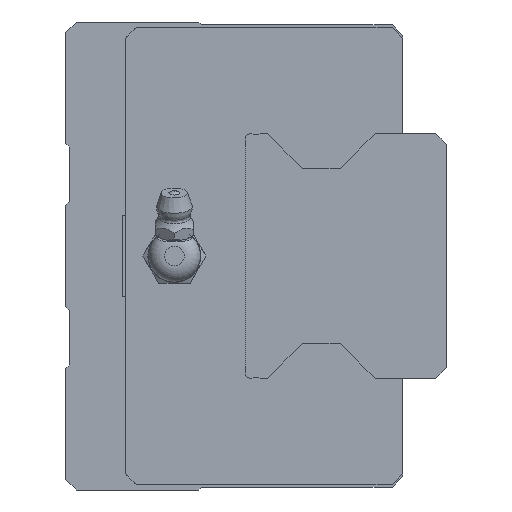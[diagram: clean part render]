
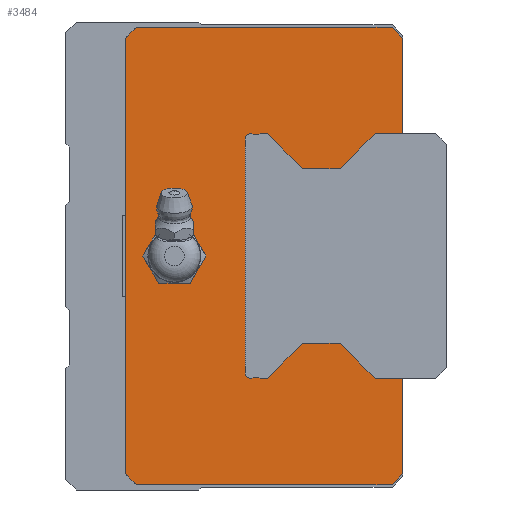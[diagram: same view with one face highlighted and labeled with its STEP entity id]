
A CAD part, left-side view. The second image highlights one B-rep face of the part: STEP entity #3484.
In plain terms, the highlighted planar face has unit normal (-1, 0, 0).
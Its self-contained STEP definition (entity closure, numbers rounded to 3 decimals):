
#157=CIRCLE('',#3797,4.989);
#158=CIRCLE('',#3798,0.26);
#159=CIRCLE('',#3799,0.26);
#160=CIRCLE('',#3800,1.);
#161=CIRCLE('',#3801,1.);
#162=CIRCLE('',#3802,0.26);
#163=CIRCLE('',#3803,0.26);
#671=ORIENTED_EDGE('',*,*,#1439,.T.);
#672=ORIENTED_EDGE('',*,*,#1440,.T.);
#673=ORIENTED_EDGE('',*,*,#1433,.F.);
#674=ORIENTED_EDGE('',*,*,#1407,.F.);
#675=ORIENTED_EDGE('',*,*,#1403,.F.);
#676=ORIENTED_EDGE('',*,*,#1395,.F.);
#677=ORIENTED_EDGE('',*,*,#1425,.F.);
#678=ORIENTED_EDGE('',*,*,#1381,.F.);
#679=ORIENTED_EDGE('',*,*,#1418,.F.);
#680=ORIENTED_EDGE('',*,*,#1415,.F.);
#681=ORIENTED_EDGE('',*,*,#1435,.F.);
#682=ORIENTED_EDGE('',*,*,#1441,.T.);
#683=ORIENTED_EDGE('',*,*,#1442,.T.);
#684=ORIENTED_EDGE('',*,*,#1443,.F.);
#685=ORIENTED_EDGE('',*,*,#1444,.T.);
#686=ORIENTED_EDGE('',*,*,#1445,.F.);
#687=ORIENTED_EDGE('',*,*,#1446,.T.);
#688=ORIENTED_EDGE('',*,*,#1447,.T.);
#689=ORIENTED_EDGE('',*,*,#1448,.T.);
#690=ORIENTED_EDGE('',*,*,#1449,.T.);
#691=ORIENTED_EDGE('',*,*,#1450,.T.);
#692=ORIENTED_EDGE('',*,*,#1451,.T.);
#693=ORIENTED_EDGE('',*,*,#1452,.T.);
#694=ORIENTED_EDGE('',*,*,#1453,.T.);
#695=ORIENTED_EDGE('',*,*,#1454,.T.);
#696=ORIENTED_EDGE('',*,*,#1455,.T.);
#697=ORIENTED_EDGE('',*,*,#1456,.T.);
#698=ORIENTED_EDGE('',*,*,#1457,.F.);
#699=ORIENTED_EDGE('',*,*,#1458,.T.);
#700=ORIENTED_EDGE('',*,*,#1459,.F.);
#701=ORIENTED_EDGE('',*,*,#1460,.T.);
#1381=EDGE_CURVE('',#1806,#1807,#2126,.T.);
#1395=EDGE_CURVE('',#1819,#1820,#2140,.T.);
#1403=EDGE_CURVE('',#1820,#1826,#2147,.T.);
#1407=EDGE_CURVE('',#1826,#1828,#2151,.T.);
#1415=EDGE_CURVE('',#1835,#1836,#2159,.T.);
#1418=EDGE_CURVE('',#1836,#1806,#2162,.T.);
#1425=EDGE_CURVE('',#1807,#1819,#2168,.T.);
#1433=EDGE_CURVE('',#1828,#1841,#2176,.T.);
#1435=EDGE_CURVE('',#1843,#1835,#2178,.T.);
#1439=EDGE_CURVE('',#1846,#1846,#157,.T.);
#1440=EDGE_CURVE('',#1847,#1841,#2182,.T.);
#1441=EDGE_CURVE('',#1843,#1848,#2183,.T.);
#1442=EDGE_CURVE('',#1848,#1849,#2184,.T.);
#1443=EDGE_CURVE('',#1850,#1849,#158,.T.);
#1444=EDGE_CURVE('',#1850,#1851,#2185,.T.);
#1445=EDGE_CURVE('',#1852,#1851,#159,.T.);
#1446=EDGE_CURVE('',#1852,#1853,#2186,.T.);
#1447=EDGE_CURVE('',#1853,#1854,#2187,.T.);
#1448=EDGE_CURVE('',#1854,#1855,#2188,.T.);
#1449=EDGE_CURVE('',#1855,#1856,#2189,.T.);
#1450=EDGE_CURVE('',#1856,#1857,#160,.T.);
#1451=EDGE_CURVE('',#1857,#1858,#2190,.T.);
#1452=EDGE_CURVE('',#1858,#1859,#161,.T.);
#1453=EDGE_CURVE('',#1859,#1860,#2191,.T.);
#1454=EDGE_CURVE('',#1860,#1861,#2192,.T.);
#1455=EDGE_CURVE('',#1861,#1862,#2193,.T.);
#1456=EDGE_CURVE('',#1862,#1863,#2194,.T.);
#1457=EDGE_CURVE('',#1864,#1863,#162,.T.);
#1458=EDGE_CURVE('',#1864,#1865,#2195,.T.);
#1459=EDGE_CURVE('',#1866,#1865,#163,.T.);
#1460=EDGE_CURVE('',#1866,#1847,#2196,.T.);
#1806=VERTEX_POINT('',#5408);
#1807=VERTEX_POINT('',#5410);
#1819=VERTEX_POINT('',#5436);
#1820=VERTEX_POINT('',#5438);
#1826=VERTEX_POINT('',#5454);
#1828=VERTEX_POINT('',#5461);
#1835=VERTEX_POINT('',#5476);
#1836=VERTEX_POINT('',#5478);
#1841=VERTEX_POINT('',#5503);
#1843=VERTEX_POINT('',#5511);
#1846=VERTEX_POINT('',#5520);
#1847=VERTEX_POINT('',#5522);
#1848=VERTEX_POINT('',#5524);
#1849=VERTEX_POINT('',#5526);
#1850=VERTEX_POINT('',#5528);
#1851=VERTEX_POINT('',#5530);
#1852=VERTEX_POINT('',#5532);
#1853=VERTEX_POINT('',#5534);
#1854=VERTEX_POINT('',#5536);
#1855=VERTEX_POINT('',#5538);
#1856=VERTEX_POINT('',#5540);
#1857=VERTEX_POINT('',#5542);
#1858=VERTEX_POINT('',#5544);
#1859=VERTEX_POINT('',#5546);
#1860=VERTEX_POINT('',#5548);
#1861=VERTEX_POINT('',#5550);
#1862=VERTEX_POINT('',#5552);
#1863=VERTEX_POINT('',#5554);
#1864=VERTEX_POINT('',#5556);
#1865=VERTEX_POINT('',#5558);
#1866=VERTEX_POINT('',#5560);
#2126=LINE('',#5409,#2440);
#2140=LINE('',#5437,#2454);
#2147=LINE('',#5453,#2461);
#2151=LINE('',#5460,#2465);
#2159=LINE('',#5477,#2473);
#2162=LINE('',#5482,#2476);
#2168=LINE('',#5493,#2482);
#2176=LINE('',#5508,#2490);
#2178=LINE('',#5513,#2492);
#2182=LINE('',#5521,#2496);
#2183=LINE('',#5523,#2497);
#2184=LINE('',#5525,#2498);
#2185=LINE('',#5529,#2499);
#2186=LINE('',#5533,#2500);
#2187=LINE('',#5535,#2501);
#2188=LINE('',#5537,#2502);
#2189=LINE('',#5539,#2503);
#2190=LINE('',#5543,#2504);
#2191=LINE('',#5547,#2505);
#2192=LINE('',#5549,#2506);
#2193=LINE('',#5551,#2507);
#2194=LINE('',#5553,#2508);
#2195=LINE('',#5557,#2509);
#2196=LINE('',#5561,#2510);
#2440=VECTOR('',#4390,1000.);
#2454=VECTOR('',#4406,1000.);
#2461=VECTOR('',#4419,1000.);
#2465=VECTOR('',#4425,1000.);
#2473=VECTOR('',#4435,1000.);
#2476=VECTOR('',#4440,1000.);
#2482=VECTOR('',#4454,1000.);
#2490=VECTOR('',#4466,1000.);
#2492=VECTOR('',#4470,1000.);
#2496=VECTOR('',#4478,1000.);
#2497=VECTOR('',#4479,1000.);
#2498=VECTOR('',#4480,1000.);
#2499=VECTOR('',#4483,1000.);
#2500=VECTOR('',#4486,1000.);
#2501=VECTOR('',#4487,1000.);
#2502=VECTOR('',#4488,1000.);
#2503=VECTOR('',#4489,1000.);
#2504=VECTOR('',#4492,1000.);
#2505=VECTOR('',#4495,1000.);
#2506=VECTOR('',#4496,1000.);
#2507=VECTOR('',#4497,1000.);
#2508=VECTOR('',#4498,1000.);
#2509=VECTOR('',#4501,1000.);
#2510=VECTOR('',#4504,1000.);
#2759=EDGE_LOOP('',(#671));
#2760=EDGE_LOOP('',(#672,#673,#674,#675,#676,#677,#678,#679,#680,#681,#682,
#683,#684,#685,#686,#687,#688,#689,#690,#691,#692,#693,#694,#695,#696,#697,
#698,#699,#700,#701));
#3078=FACE_BOUND('',#2759,.T.);
#3079=FACE_BOUND('',#2760,.T.);
#3316=PLANE('',#3796);
#3484=ADVANCED_FACE('',(#3078,#3079),#3316,.F.);
#3796=AXIS2_PLACEMENT_3D('',#5518,#4474,#4475);
#3797=AXIS2_PLACEMENT_3D('',#5519,#4476,#4477);
#3798=AXIS2_PLACEMENT_3D('',#5527,#4481,#4482);
#3799=AXIS2_PLACEMENT_3D('',#5531,#4484,#4485);
#3800=AXIS2_PLACEMENT_3D('',#5541,#4490,#4491);
#3801=AXIS2_PLACEMENT_3D('',#5545,#4493,#4494);
#3802=AXIS2_PLACEMENT_3D('',#5555,#4499,#4500);
#3803=AXIS2_PLACEMENT_3D('',#5559,#4502,#4503);
#4390=DIRECTION('',(0.,0.707,0.707));
#4406=DIRECTION('',(0.,-0.707,0.707));
#4419=DIRECTION('',(0.,-1.,0.));
#4425=DIRECTION('',(0.,-0.707,-0.707));
#4435=DIRECTION('',(0.,0.707,-0.707));
#4440=DIRECTION('',(0.,1.,0.));
#4454=DIRECTION('',(0.,0.,1.));
#4466=DIRECTION('',(0.,0.,-1.));
#4470=DIRECTION('',(0.,0.,-1.));
#4474=DIRECTION('',(1.,0.,0.));
#4475=DIRECTION('',(0.,0.,-1.));
#4476=DIRECTION('',(1.,0.,0.));
#4477=DIRECTION('',(0.,0.,-1.));
#4478=DIRECTION('',(0.,-1.,0.));
#4479=DIRECTION('',(0.,1.,0.));
#4480=DIRECTION('',(0.,0.707,0.707));
#4481=DIRECTION('',(1.,0.,0.));
#4482=DIRECTION('',(0.,0.,-1.));
#4483=DIRECTION('',(0.,1.,0.));
#4484=DIRECTION('',(1.,0.,0.));
#4485=DIRECTION('',(0.,0.,-1.));
#4486=DIRECTION('',(0.,0.707,-0.707));
#4487=DIRECTION('',(0.,1.,0.));
#4488=DIRECTION('',(0.,0.707,0.707));
#4489=DIRECTION('',(0.,1.,0.));
#4490=DIRECTION('',(1.,0.,0.));
#4491=DIRECTION('',(0.,0.,-1.));
#4492=DIRECTION('',(0.,0.,1.));
#4493=DIRECTION('',(1.,0.,0.));
#4494=DIRECTION('',(0.,0.,-1.));
#4495=DIRECTION('',(0.,-1.,0.));
#4496=DIRECTION('',(0.,-0.707,0.707));
#4497=DIRECTION('',(0.,-1.,0.));
#4498=DIRECTION('',(0.,-0.707,-0.707));
#4499=DIRECTION('',(1.,0.,0.));
#4500=DIRECTION('',(0.,0.,-1.));
#4501=DIRECTION('',(0.,-1.,0.));
#4502=DIRECTION('',(1.,0.,0.));
#4503=DIRECTION('',(0.,0.,-1.));
#4504=DIRECTION('',(0.,-0.707,0.707));
#5408=CARTESIAN_POINT('',(-77.5,49.,-42.));
#5409=CARTESIAN_POINT('',(-77.5,49.,-42.));
#5410=CARTESIAN_POINT('',(-77.5,51.,-40.));
#5436=CARTESIAN_POINT('',(-77.5,51.,40.));
#5437=CARTESIAN_POINT('',(-77.5,51.,40.));
#5438=CARTESIAN_POINT('',(-77.5,49.,42.));
#5453=CARTESIAN_POINT('',(-77.5,49.,42.));
#5454=CARTESIAN_POINT('',(-77.5,2.,42.));
#5460=CARTESIAN_POINT('',(-77.5,2.,42.));
#5461=CARTESIAN_POINT('',(-77.5,0.,40.));
#5476=CARTESIAN_POINT('',(-77.5,0.,-40.));
#5477=CARTESIAN_POINT('',(-77.5,0.,-40.));
#5478=CARTESIAN_POINT('',(-77.5,2.,-42.));
#5482=CARTESIAN_POINT('',(-77.5,2.,-42.));
#5493=CARTESIAN_POINT('',(-77.5,51.,-40.));
#5503=CARTESIAN_POINT('',(-77.5,0.,22.5));
#5508=CARTESIAN_POINT('',(-77.5,0.,40.));
#5511=CARTESIAN_POINT('',(-77.5,0.,-22.5));
#5513=CARTESIAN_POINT('',(-77.5,0.,40.));
#5518=CARTESIAN_POINT('',(-77.5,0.,0.));
#5519=CARTESIAN_POINT('',(-77.5,42.,0.));
#5520=CARTESIAN_POINT('',(-77.5,42.,-4.989));
#5521=CARTESIAN_POINT('',(-77.5,5.1,22.5));
#5522=CARTESIAN_POINT('',(-77.5,5.1,22.5));
#5523=CARTESIAN_POINT('',(-77.5,-6.,-22.5));
#5524=CARTESIAN_POINT('',(-77.5,5.1,-22.5));
#5525=CARTESIAN_POINT('',(-77.5,5.1,-22.5));
#5526=CARTESIAN_POINT('',(-77.5,11.524,-16.076));
#5527=CARTESIAN_POINT('',(-77.5,11.708,-16.26));
#5528=CARTESIAN_POINT('',(-77.5,11.708,-16.));
#5529=CARTESIAN_POINT('',(-77.5,11.708,-16.));
#5530=CARTESIAN_POINT('',(-77.5,18.292,-16.));
#5531=CARTESIAN_POINT('',(-77.5,18.292,-16.26));
#5532=CARTESIAN_POINT('',(-77.5,18.476,-16.076));
#5533=CARTESIAN_POINT('',(-77.5,18.476,-16.076));
#5534=CARTESIAN_POINT('',(-77.5,24.9,-22.5));
#5535=CARTESIAN_POINT('',(-77.5,24.9,-22.5));
#5536=CARTESIAN_POINT('',(-77.5,26.25,-22.5));
#5537=CARTESIAN_POINT('',(-77.5,26.25,-22.5));
#5538=CARTESIAN_POINT('',(-77.5,26.5,-22.25));
#5539=CARTESIAN_POINT('',(-77.5,26.5,-22.25));
#5540=CARTESIAN_POINT('',(-77.5,27.339,-22.25));
#5541=CARTESIAN_POINT('',(-77.5,28.,-21.5));
#5542=CARTESIAN_POINT('',(-77.5,29.,-21.5));
#5543=CARTESIAN_POINT('',(-77.5,29.,-21.5));
#5544=CARTESIAN_POINT('',(-77.5,29.,21.5));
#5545=CARTESIAN_POINT('',(-77.5,28.,21.5));
#5546=CARTESIAN_POINT('',(-77.5,27.339,22.25));
#5547=CARTESIAN_POINT('',(-77.5,27.339,22.25));
#5548=CARTESIAN_POINT('',(-77.5,26.5,22.25));
#5549=CARTESIAN_POINT('',(-77.5,26.5,22.25));
#5550=CARTESIAN_POINT('',(-77.5,26.25,22.5));
#5551=CARTESIAN_POINT('',(-77.5,26.25,22.5));
#5552=CARTESIAN_POINT('',(-77.5,24.9,22.5));
#5553=CARTESIAN_POINT('',(-77.5,24.9,22.5));
#5554=CARTESIAN_POINT('',(-77.5,18.476,16.076));
#5555=CARTESIAN_POINT('',(-77.5,18.292,16.26));
#5556=CARTESIAN_POINT('',(-77.5,18.292,16.));
#5557=CARTESIAN_POINT('',(-77.5,18.292,16.));
#5558=CARTESIAN_POINT('',(-77.5,11.708,16.));
#5559=CARTESIAN_POINT('',(-77.5,11.708,16.26));
#5560=CARTESIAN_POINT('',(-77.5,11.524,16.076));
#5561=CARTESIAN_POINT('',(-77.5,11.524,16.076));
